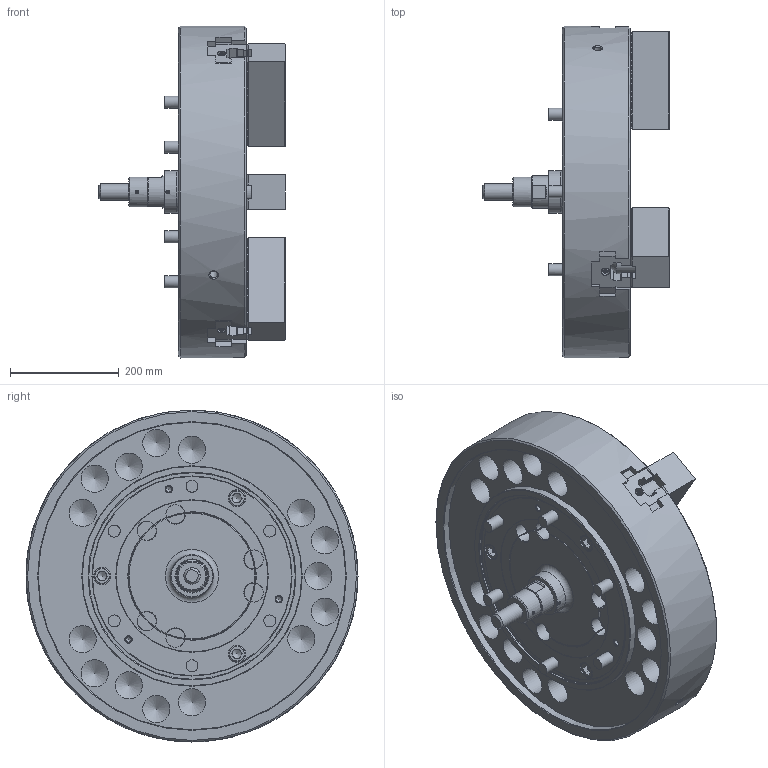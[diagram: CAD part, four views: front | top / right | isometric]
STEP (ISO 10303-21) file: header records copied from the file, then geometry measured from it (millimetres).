
FILE_DESCRIPTION (( 'STEP AP214' ), '1' );
FILE_NAME ('N-24_OC.STEP', '2020-01-27T05:34:53', ( '' ), ( '' ), 'SwSTEP 2.0', 'SolidWorks 2017', '' );
FILE_SCHEMA (( 'AUTOMOTIVE_DESIGN' ));
Length unit declared in the file: millimetre
Products named in the file (21): 俛傾僫僣僉 M20x6020x60; 61P4185380 T僫僢僩b_g_棉太倌佱UA; P322625 ソフトジョー_W_‡_[; Part2^61P2542091 僋儈僞僥_^_e_棉太倌I佱UA; 61P4185380 T僫僢僩b_g; N-24_OC; Part2^61P2542091 クミタテ_^_e; 俛傾僫僣僉 M20x6020x60_B迸路 M20X6020X60; P322625 ソフトジョー_W_‡_[_ﾃﾞﾌｫﾙﾄ_ATI≪UA
Assembly tree (16 placements, depth 2):
  俛傾僫僣僉 M20x6020x60
  P322625 ソフトジョー_W_‡_[
  61P4185380 T僫僢僩b_g
  N-24_OC
    P322625 ソフトジョー_W_‡_[_ﾃﾞﾌｫﾙﾄ_ATI≪UA  x3
    61P4185380 T僫僢僩b_g_棉太倌佱UA  x6
    俛傾僫僣僉 M20x6020x60_B迸路 M20X6020X60  x6
    Part2^61P2542091 僋儈僞僥_^_e_棉太倌I佱UA
  俛傾僫僣僉 M20x6020x60
Bounding box: 342 x 610 x 610 mm (x, y, z)
Volume: 34322763.3 mm3; surface area: 1561344.2 mm2
Topology: 16 solids, 22 shells, 4089 faces, 11683 edges, 7712 vertices
Faces by surface type: plane 3591, cylinder 264, cone 193, torus 38, sphere 3
Full cylindrical faces by diameter (mm): 6.8 x1, 8 x3, 9 x3, 10.5 x6, 11 x3, 14 x2, 15 x3, 17.5 x6, 20 x12, 21 x6, 22 x6, 30 x10, 32 x9, 33 x6, 36 x6, 50 x15, 55 x1, 60 x2, 60.5 x2, 78 x1, 380 x1, 381 x1, 405 x1, 565 x1, 610 x1
Entity records: 101510 total; most frequent: CARTESIAN_POINT 19905, ORIENTED_EDGE 17574, DIRECTION 15464, EDGE_CURVE 8787, LINE 7672, VECTOR 7672, VERTEX_POINT 5862, AXIS2_PLACEMENT_3D 3896
